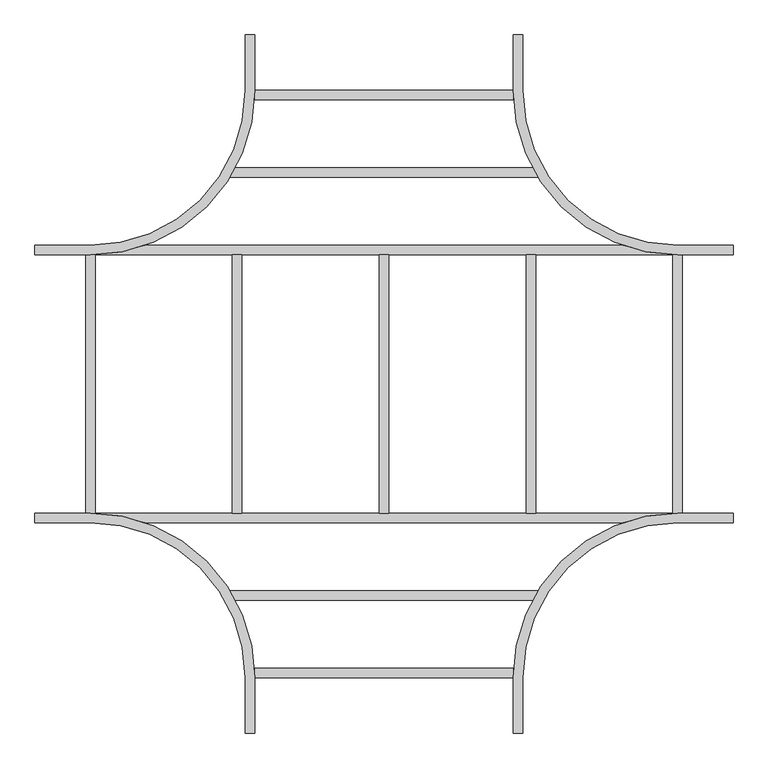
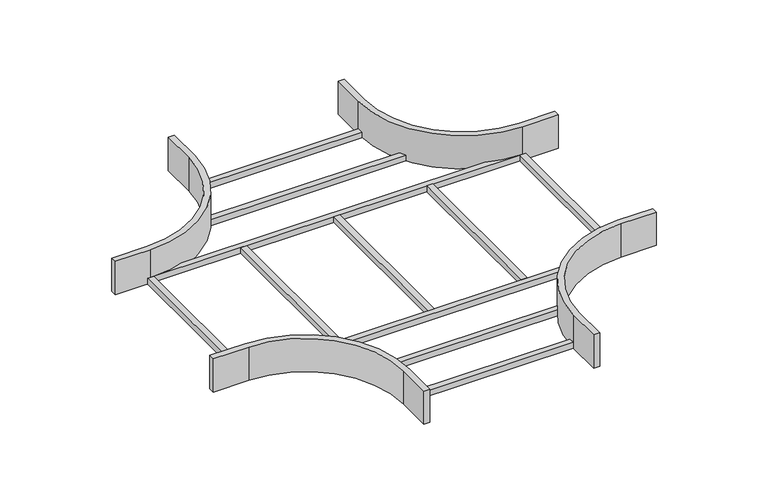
"""IFC4 building model written with IfcOpenShell, lengths in millimetres: cable carrier fitting geometry, BAKS_LD_CROSS_Horizontal cross over_CZDV : CZDVC_H150."""

from ifc_helpers import new_model, si_unit, frame, origin, place, context, project, spatial, polyline, circle_curve, outline, extrude, source, transform, mapped, element, save
from ifc_brep_helpers import plane_surface, cylinder_surface, revolved_surface, advanced_brep


def cable_carrier_fitting_570c6ff0(model_context):
    return source(origin(), model_context, "Body", "SolidModel", [
        extrude(outline(polyline([(416.8889052, -559.6), (416.8889052, -585.0), (-416.8889052, -585.0), (-416.8889052, -559.6), (416.8889052, -559.6)])), frame((0.0, 0.0, -75.0), z_axis=(0.0, 0.0, 1.0), x_axis=(1.0, 0.0, 0.0)), (0.0, 0.0, 1.0), 25.4),
        extrude(outline(polyline([(416.8889052, 585.0), (416.8889052, 559.6), (-416.8889052, 559.6), (-416.8889052, 585.0), (416.8889052, 585.0)])), frame((0.0, 0.0, -75.0), z_axis=(0.0, 0.0, 1.0), x_axis=(1.0, 0.0, 0.0)), (0.0, 0.0, 1.0), 25.4),
        extrude(outline(polyline([(349.6, -769.6), (349.6, -795.0), (-349.6, -795.0), (-349.6, -769.6), (349.6, -769.6)])), frame((0.0, 0.0, -75.0), z_axis=(0.0, 0.0, 1.0), x_axis=(1.0, 0.0, 0.0)), (0.0, 0.0, 1.0), 25.4),
        extrude(outline(polyline([(349.6, 795.0), (349.6, 769.6), (-349.6, 769.6), (-349.6, 795.0), (349.6, 795.0)])), frame((0.0, 0.0, -75.0), z_axis=(0.0, 0.0, 1.0), x_axis=(1.0, 0.0, 0.0)), (0.0, 0.0, 1.0), 25.4),
        extrude(outline(polyline([(807.7, 349.6), (807.7, -349.6), (782.3, -349.6), (782.3, 349.6), (807.7, 349.6)])), frame((0.0, 0.0, -75.0), z_axis=(0.0, 0.0, 1.0), x_axis=(1.0, 0.0, 0.0)), (0.0, 0.0, 1.0), 25.4),
        extrude(outline(polyline([(410.2, 349.6), (410.2, -349.6), (384.8, -349.6), (384.8, 349.6), (410.2, 349.6)])), frame((0.0, 0.0, -75.0), z_axis=(0.0, 0.0, 1.0), x_axis=(1.0, 0.0, 0.0)), (0.0, 0.0, 1.0), 25.4),
        extrude(outline(polyline([(12.7, 349.6), (12.7, -349.6), (-12.7, -349.6), (-12.7, 349.6), (12.7, 349.6)])), frame((0.0, 0.0, -75.0), z_axis=(0.0, 0.0, 1.0), x_axis=(1.0, 0.0, 0.0)), (0.0, 0.0, 1.0), 25.4),
        extrude(outline(polyline([(-384.8, 349.6), (-384.8, -349.6), (-410.2, -349.6), (-410.2, 349.6), (-384.8, 349.6)])), frame((0.0, 0.0, -75.0), z_axis=(0.0, 0.0, 1.0), x_axis=(1.0, 0.0, 0.0)), (0.0, 0.0, 1.0), 25.4),
        extrude(outline(polyline([(-782.3, 349.6), (-782.3, -349.6), (-807.7, -349.6), (-807.7, 349.6), (-782.3, 349.6)])), frame((0.0, 0.0, -75.0), z_axis=(0.0, 0.0, 1.0), x_axis=(1.0, 0.0, 0.0)), (0.0, 0.0, 1.0), 25.4),
        advanced_brep(
        [(-375.0, -795.0, 75.0), (-375.0, -945.0, 75.0), (-349.6, -945.0, 75.0), (-349.6, -795.0, 75.0), (-795.0, -349.6, 75.0), (-945.0, -349.6, 75.0), (-945.0, -375.0, 75.0), (-795.0, -375.0, 75.0), (375.0, -795.0, 75.0), (795.0, -375.0, 75.0), (945.0, -375.0, 75.0), (945.0, -349.6, 75.0), (795.0, -349.6, 75.0), (349.6, -795.0, 75.0), (349.6, -945.0, 75.0), (375.0, -945.0, 75.0), (-375.0, -795.0, -75.0), (-795.0, -375.0, -75.0), (-945.0, -375.0, -75.0), (-945.0, -349.6, -75.0), (945.0, -349.6, -75.0), (945.0, -375.0, -75.0), (795.0, -375.0, -75.0), (375.0, -795.0, -75.0), (375.0, -945.0, -75.0), (349.6, -945.0, -75.0), (349.6, -795.0, -75.0), (646.7395535, -375.0, -75.0), (-646.7395535, -375.0, -75.0), (-349.6, -795.0, -75.0), (-349.6, -945.0, -75.0), (-375.0, -945.0, -75.0), (-646.7395535, -375.0, -49.6), (-795.0, -349.6, -49.6), (795.0, -349.6, -49.6), (-795.0, -375.0, -49.6), (795.0, -375.0, -49.6), (646.7395535, -375.0, -49.6)],
        [
            (0, 1),
            (1, 2),
            (2, 3),
            (3, 4, circle_curve(frame((-795.0, -795.0, 75.0), z_axis=(0.0, 0.0, 1.0), x_axis=(1.0, 0.0, 0.0)), 445.4)),
            (4, 5),
            (5, 6),
            (6, 7),
            (7, 0, circle_curve(frame((-795.0, -795.0, 75.0), z_axis=(0.0, 0.0, -1.0), x_axis=(1.0, 0.0, 0.0)), 420.0)),
            (8, 9, circle_curve(frame((795.0, -795.0, 75.0), z_axis=(0.0, 0.0, -1.0), x_axis=(1.0, 0.0, 0.0)), 420.0)),
            (9, 10),
            (10, 11),
            (11, 12),
            (12, 13, circle_curve(frame((795.0, -795.0, 75.0), z_axis=(0.0, 0.0, 1.0), x_axis=(1.0, 0.0, 0.0)), 445.4)),
            (13, 14),
            (14, 15),
            (15, 8),
            (16, 17, circle_curve(frame((-795.0, -795.0, -75.0), z_axis=(0.0, 0.0, 1.0), x_axis=(1.0, 0.0, 0.0)), 420.0)),
            (17, 18),
            (18, 19),
            (19, 20),
            (20, 21),
            (21, 22),
            (22, 23, circle_curve(frame((795.0, -795.0, -75.0), z_axis=(0.0, 0.0, 1.0), x_axis=(1.0, 0.0, 0.0)), 420.0)),
            (23, 24),
            (24, 25),
            (25, 26),
            (26, 27, circle_curve(frame((795.0, -795.0, -75.0), z_axis=(0.0, 0.0, -1.0), x_axis=(1.0, 0.0, 0.0)), 445.4)),
            (27, 28),
            (28, 29, circle_curve(frame((-795.0, -795.0, -75.0), z_axis=(0.0, 0.0, -1.0), x_axis=(1.0, 0.0, 0.0)), 445.4)),
            (29, 30),
            (30, 31),
            (31, 16),
            (0, 16),
            (31, 1),
            (30, 2),
            (29, 3),
            (28, 32),
            (32, 33, circle_curve(frame((-795.0, -795.0, -49.6), z_axis=(0.0, 0.0, 1.0), x_axis=(1.0, 0.0, 0.0)), 445.4)),
            (33, 4),
            (33, 34),
            (34, 12),
            (11, 20),
            (19, 5),
            (18, 6),
            (17, 35),
            (35, 7),
            (8, 23),
            (22, 36),
            (36, 9),
            (21, 10),
            (34, 37, circle_curve(frame((795.0, -795.0, -49.6), z_axis=(0.0, 0.0, 1.0), x_axis=(1.0, 0.0, 0.0)), 445.4)),
            (37, 27),
            (26, 13),
            (25, 14),
            (24, 15),
            (32, 37),
        ],
        [
            plane_surface(frame((-375.0, -795.0, 75.0), z_axis=(0.0, 0.0, 1.0), x_axis=(0.0, -1.0, 0.0))),
            plane_surface(frame((-375.0, -795.0, -75.0), z_axis=(0.0, 0.0, -1.0), x_axis=(0.0, 1.0, 0.0))),
            plane_surface(frame((-375.0, -795.0, 75.0), z_axis=(-1.0, 0.0, 0.0), x_axis=(0.0, 0.0, -1.0))),
            plane_surface(frame((-375.0, -945.0, 75.0), z_axis=(0.0, -1.0, 0.0), x_axis=(0.0, 0.0, -1.0))),
            plane_surface(frame((-349.6, -945.0, 75.0), z_axis=(1.0, 0.0, 0.0), x_axis=(0.0, 0.0, -1.0))),
            cylinder_surface(frame((-795.0, -795.0, -75.0), z_axis=(0.0, 0.0, 1.0), x_axis=(1.0, 0.0, 0.0)), 445.4),
            plane_surface(frame((-795.0, -349.6, 75.0), z_axis=(0.0, 1.0, 0.0), x_axis=(0.0, 0.0, -1.0))),
            plane_surface(frame((-945.0, -349.6, 75.0), z_axis=(-1.0, 0.0, 0.0), x_axis=(0.0, 0.0, -1.0))),
            plane_surface(frame((-945.0, -375.0, 75.0), z_axis=(0.0, -1.0, 0.0), x_axis=(0.0, 0.0, -1.0))),
            revolved_surface(polyline([(-375.0, -795.0, -75.0), (-375.0, -795.0, 75.0)]), (-795.0, -795.0, -75.0), (0.0, 0.0, -1.0)),
            revolved_surface(polyline([(1215.0, -795.0, -75.0), (1215.0, -795.0, 75.0)]), (795.0, -795.0, 0.0), (0.0, 0.0, -1.0)),
            plane_surface(frame((795.0, -375.0, 75.0), z_axis=(0.0, -1.0, 0.0), x_axis=(0.0, 0.0, -1.0))),
            plane_surface(frame((945.0, -375.0, 75.0), z_axis=(1.0, 0.0, 0.0), x_axis=(0.0, 0.0, -1.0))),
            cylinder_surface(frame((795.0, -795.0, 0.0), z_axis=(0.0, 0.0, 1.0), x_axis=(1.0, 0.0, 0.0)), 445.4),
            plane_surface(frame((349.6, -795.0, 75.0), z_axis=(-1.0, 0.0, 0.0), x_axis=(0.0, 0.0, -1.0))),
            plane_surface(frame((349.6, -945.0, 75.0), z_axis=(0.0, -1.0, 0.0), x_axis=(0.0, 0.0, -1.0))),
            plane_surface(frame((375.0, -945.0, 75.0), z_axis=(1.0, 0.0, 0.0), x_axis=(0.0, 0.0, -1.0))),
            plane_surface(frame((-795.0, -349.6, -49.6), z_axis=(0.0, 0.0, 1.0), x_axis=(-1.0, 0.0, 0.0))),
            plane_surface(frame((-795.0, -375.0, -49.6), z_axis=(0.0, -1.0, 0.0), x_axis=(0.0, 0.0, -1.0))),
        ],
        [
            (0, [[1, 2, 3, 4, 5, 6, 7, 8]]),
            (0, [[9, 10, 11, 12, 13, 14, 15, 16]]),
            (1, [[17, 18, 19, 20, 21, 22, 23, 24, 25, 26, 27, 28, 29, 30, 31, 32]]),
            (2, [[-1, 33, -32, 34]]),
            (3, [[-2, -34, -31, 35]]),
            (4, [[-3, -35, -30, 36]]),
            (5, [[-4, -36, -29, 37, 38, 39]]),
            (6, [[-5, -39, 40, 41, -12, 42, -20, 43]]),
            (7, [[-6, -43, -19, 44]]),
            (8, [[-7, -44, -18, 45, 46]]),
            (9, [[-8, -46, -45, -17, -33]]),
            (10, [[-9, 47, -23, 48, 49]]),
            (11, [[-10, -49, -48, -22, 50]]),
            (12, [[-11, -50, -21, -42]]),
            (13, [[-13, -41, 51, 52, -27, 53]]),
            (14, [[-14, -53, -26, 54]]),
            (15, [[-15, -54, -25, 55]]),
            (16, [[-16, -55, -24, -47]]),
            (17, [[-40, -38, 56, -51]]),
            (18, [[-28, -52, -56, -37]]),
        ],
    ),
        advanced_brep(
        [(-349.6, 795.0, 75.0), (-349.6, 945.0, 75.0), (-375.0, 945.0, 75.0), (-375.0, 795.0, 75.0), (-795.0, 375.0, 75.0), (-945.0, 375.0, 75.0), (-945.0, 349.6, 75.0), (-795.0, 349.6, 75.0), (349.6, 795.0, 75.0), (795.0, 349.6, 75.0), (945.0, 349.6, 75.0), (945.0, 375.0, 75.0), (795.0, 375.0, 75.0), (375.0, 795.0, 75.0), (375.0, 945.0, 75.0), (349.6, 945.0, 75.0), (-945.0, 349.6, -75.0), (-945.0, 375.0, -75.0), (-795.0, 375.0, -75.0), (-375.0, 795.0, -75.0), (-375.0, 945.0, -75.0), (-349.6, 945.0, -75.0), (-349.6, 795.0, -75.0), (-646.7395535, 375.0, -75.0), (646.7395535, 375.0, -75.0), (349.6, 795.0, -75.0), (349.6, 945.0, -75.0), (375.0, 945.0, -75.0), (375.0, 795.0, -75.0), (795.0, 375.0, -75.0), (945.0, 375.0, -75.0), (945.0, 349.6, -75.0), (-795.0, 349.6, -49.6), (795.0, 349.6, -49.6), (646.7395535, 375.0, -49.6), (-646.7395535, 375.0, -49.6), (-795.0, 375.0, -49.6), (795.0, 375.0, -49.6)],
        [
            (0, 1),
            (1, 2),
            (2, 3),
            (3, 4, circle_curve(frame((-795.0, 795.0, 75.0), z_axis=(0.0, 0.0, -1.0), x_axis=(1.0, 0.0, 0.0)), 420.0)),
            (4, 5),
            (5, 6),
            (6, 7),
            (7, 0, circle_curve(frame((-795.0, 795.0, 75.0), z_axis=(0.0, 0.0, 1.0), x_axis=(1.0, 0.0, 0.0)), 445.4)),
            (8, 9, circle_curve(frame((795.0, 795.0, 75.0), z_axis=(0.0, 0.0, 1.0), x_axis=(1.0, 0.0, 0.0)), 445.4)),
            (9, 10),
            (10, 11),
            (11, 12),
            (12, 13, circle_curve(frame((795.0, 795.0, 75.0), z_axis=(0.0, 0.0, -1.0), x_axis=(1.0, 0.0, 0.0)), 420.0)),
            (13, 14),
            (14, 15),
            (15, 8),
            (16, 17),
            (17, 18),
            (18, 19, circle_curve(frame((-795.0, 795.0, -75.0), z_axis=(0.0, 0.0, 1.0), x_axis=(1.0, 0.0, 0.0)), 420.0)),
            (19, 20),
            (20, 21),
            (21, 22),
            (22, 23, circle_curve(frame((-795.0, 795.0, -75.0), z_axis=(0.0, 0.0, -1.0), x_axis=(1.0, 0.0, 0.0)), 445.4)),
            (23, 24),
            (24, 25, circle_curve(frame((795.0, 795.0, -75.0), z_axis=(0.0, 0.0, -1.0), x_axis=(1.0, 0.0, 0.0)), 445.4)),
            (25, 26),
            (26, 27),
            (27, 28),
            (28, 29, circle_curve(frame((795.0, 795.0, -75.0), z_axis=(0.0, 0.0, 1.0), x_axis=(1.0, 0.0, 0.0)), 420.0)),
            (29, 30),
            (30, 31),
            (31, 16),
            (32, 33),
            (33, 34, circle_curve(frame((795.0, 795.0, -49.6), z_axis=(0.0, 0.0, -1.0), x_axis=(1.0, 0.0, 0.0)), 445.4)),
            (34, 35),
            (35, 32, circle_curve(frame((-795.0, 795.0, -49.6), z_axis=(0.0, 0.0, -1.0), x_axis=(1.0, 0.0, 0.0)), 445.4)),
            (0, 22),
            (21, 1),
            (20, 2),
            (19, 3),
            (18, 36),
            (36, 4),
            (17, 5),
            (16, 6),
            (31, 10),
            (9, 33),
            (32, 7),
            (35, 23),
            (8, 25),
            (24, 34),
            (30, 11),
            (29, 37),
            (37, 12),
            (28, 13),
            (27, 14),
            (26, 15),
        ],
        [
            plane_surface(frame((-375.0, -795.0, 75.0), z_axis=(0.0, 0.0, 1.0), x_axis=(0.0, -1.0, 0.0))),
            plane_surface(frame((-375.0, -795.0, -75.0), z_axis=(0.0, 0.0, -1.0), x_axis=(0.0, 1.0, 0.0))),
            plane_surface(frame((-795.0, -349.6, -49.6), z_axis=(0.0, 0.0, 1.0), x_axis=(-1.0, 0.0, 0.0))),
            plane_surface(frame((-349.6, 795.0, 75.0), z_axis=(1.0, 0.0, 0.0), x_axis=(0.0, 0.0, -1.0))),
            plane_surface(frame((-349.6, 945.0, 75.0), z_axis=(0.0, 1.0, 0.0), x_axis=(0.0, 0.0, -1.0))),
            plane_surface(frame((-375.0, 945.0, 75.0), z_axis=(-1.0, 0.0, 0.0), x_axis=(0.0, 0.0, -1.0))),
            revolved_surface(polyline([(-375.0, 795.0, -75.0), (-375.0, 795.0, 75.0)]), (-795.0, 795.0, 0.0), (0.0, 0.0, -1.0)),
            plane_surface(frame((-795.0, 375.0, 75.0), z_axis=(0.0, 1.0, 0.0), x_axis=(0.0, 0.0, -1.0))),
            plane_surface(frame((-945.0, 375.0, 75.0), z_axis=(-1.0, 0.0, 0.0), x_axis=(0.0, 0.0, -1.0))),
            plane_surface(frame((-945.0, 349.6, 75.0), z_axis=(0.0, -1.0, 0.0), x_axis=(0.0, 0.0, -1.0))),
            cylinder_surface(frame((-795.0, 795.0, 0.0), z_axis=(0.0, 0.0, 1.0), x_axis=(1.0, 0.0, 0.0)), 445.4),
            cylinder_surface(frame((795.0, 795.0, 0.0), z_axis=(0.0, 0.0, 1.0), x_axis=(1.0, 0.0, 0.0)), 445.4),
            plane_surface(frame((945.0, 349.6, 75.0), z_axis=(1.0, 0.0, 0.0), x_axis=(0.0, 0.0, -1.0))),
            plane_surface(frame((945.0, 375.0, 75.0), z_axis=(0.0, 1.0, 0.0), x_axis=(0.0, 0.0, -1.0))),
            revolved_surface(polyline([(1215.0, 795.0, -75.0), (1215.0, 795.0, 75.0)]), (795.0, 795.0, 0.0), (0.0, 0.0, -1.0)),
            plane_surface(frame((375.0, 795.0, 75.0), z_axis=(1.0, 0.0, 0.0), x_axis=(0.0, 0.0, -1.0))),
            plane_surface(frame((375.0, 945.0, 75.0), z_axis=(0.0, 1.0, 0.0), x_axis=(0.0, 0.0, -1.0))),
            plane_surface(frame((349.6, 945.0, 75.0), z_axis=(-1.0, 0.0, 0.0), x_axis=(0.0, 0.0, -1.0))),
            plane_surface(frame((795.0, 375.0, -49.6), z_axis=(0.0, 1.0, 0.0), x_axis=(0.0, 0.0, -1.0))),
        ],
        [
            (0, [[1, 2, 3, 4, 5, 6, 7, 8]]),
            (0, [[9, 10, 11, 12, 13, 14, 15, 16]]),
            (1, [[17, 18, 19, 20, 21, 22, 23, 24, 25, 26, 27, 28, 29, 30, 31, 32]]),
            (2, [[33, 34, 35, 36]]),
            (3, [[-1, 37, -22, 38]]),
            (4, [[-2, -38, -21, 39]]),
            (5, [[-3, -39, -20, 40]]),
            (6, [[-4, -40, -19, 41, 42]]),
            (7, [[-5, -42, -41, -18, 43]]),
            (8, [[-6, -43, -17, 44]]),
            (9, [[-7, -44, -32, 45, -10, 46, -33, 47]]),
            (10, [[-8, -47, -36, 48, -23, -37]]),
            (11, [[-9, 49, -25, 50, -34, -46]]),
            (12, [[-11, -45, -31, 51]]),
            (13, [[-12, -51, -30, 52, 53]]),
            (14, [[-13, -53, -52, -29, 54]]),
            (15, [[-14, -54, -28, 55]]),
            (16, [[-15, -55, -27, 56]]),
            (17, [[-16, -56, -26, -49]]),
            (18, [[-24, -48, -35, -50]]),
        ],
    ),
    ])


if __name__ == "__main__":
    model = new_model("IFC4")
    model_context = context("Model", 3, world=origin())
    ifc_project = project(units=[si_unit("LENGTHUNIT", "METRE", prefix="MILLI")], contexts=[model_context])
    site = spatial("IfcSite", under=ifc_project)
    building = spatial("IfcBuilding", under=site)
    placement = place(None, origin())
    cable_carrier_fitting_shape = cable_carrier_fitting_570c6ff0(model_context)
    element("IfcCableCarrierFitting", 1, ObjectType="BAKS_LD_CROSS_Horizontal cross over_CZDV : CZDVC_H150", at=placement, inside=building, context=model_context, shape_type="MappedRepresentation", body=[
        mapped(cable_carrier_fitting_shape, transform((0.0, 0.0, 0.0), x_axis=(1.0, 0.0, 0.0), y_axis=(0.0, 1.0, 0.0), z_axis=(0.0, 0.0, 1.0))),
    ])
    save(model, "model.ifc")
